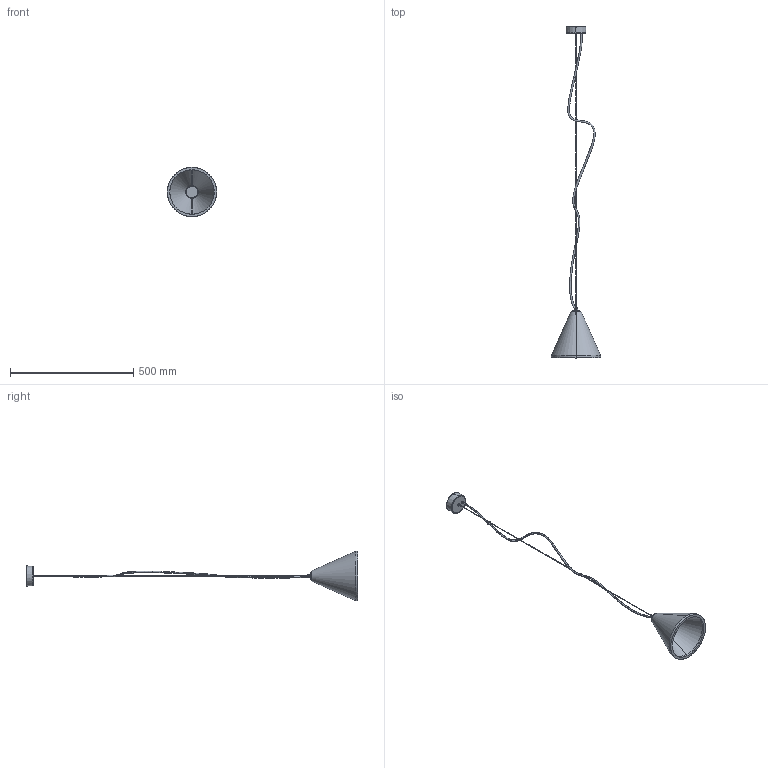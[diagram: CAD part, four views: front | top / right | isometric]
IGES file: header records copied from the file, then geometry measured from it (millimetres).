
Start section: SolidWorks IGES file using analytic representation for surfaces
Global section: file name: E:\3D lampy\Volcano\Volcano_6853.IGS; native system: SolidWorks 2016; preprocessor: SolidWorks 2016; author: Asia; date: 161028.111045; units: millimetre
Bounding box: 200 x 1345.2 x 200 mm (x, y, z)
Surface area: 226622.3 mm2 (no closed solid volume)
Topology: 0 solids, 0 shells, 430 faces, 5240 edges, 5240 vertices
Faces by surface type: bspline 243, revolution 187
